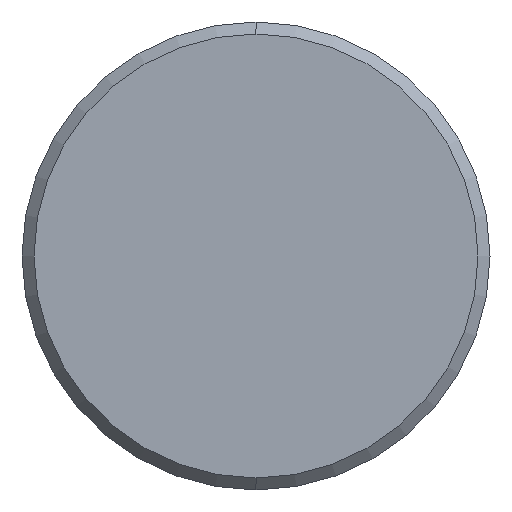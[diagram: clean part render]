
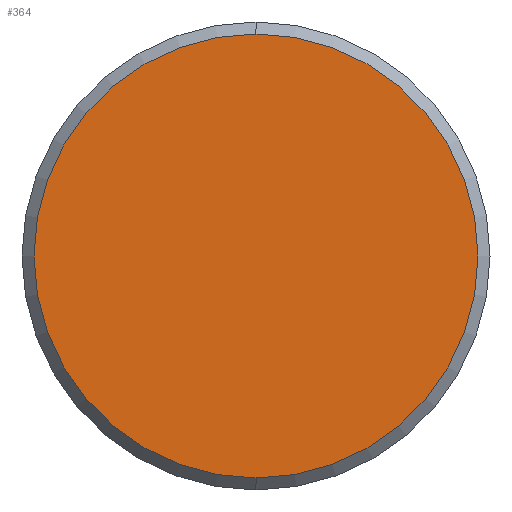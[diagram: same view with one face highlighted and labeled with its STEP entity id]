
A CAD part, left-side view. The second image highlights one B-rep face of the part: STEP entity #364.
In plain terms, the highlighted planar face has unit normal (-1, 0, 0).
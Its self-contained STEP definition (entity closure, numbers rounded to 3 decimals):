
#20 = CARTESIAN_POINT ( 'NONE',  ( 0., 0., 0. ) ) ;
#39 = EDGE_CURVE ( 'NONE', #90, #337, #125, .T. ) ;
#69 = FACE_OUTER_BOUND ( 'NONE', #587, .T. ) ;
#73 = DIRECTION ( 'NONE',  ( 0., 0., -1. ) ) ;
#74 = PLANE ( 'NONE',  #433 ) ;
#90 = VERTEX_POINT ( 'NONE', #328 ) ;
#125 = CIRCLE ( 'NONE', #540, 37. ) ;
#148 = ORIENTED_EDGE ( 'NONE', *, *, #548, .T. ) ;
#175 = CIRCLE ( 'NONE', #257, 37. ) ;
#189 = DIRECTION ( 'NONE',  ( 0., 0., -1. ) ) ;
#242 = DIRECTION ( 'NONE',  ( 0., 0., -1. ) ) ;
#257 = AXIS2_PLACEMENT_3D ( 'NONE', #544, #464, #189 ) ;
#293 = DIRECTION ( 'NONE',  ( -1., 0., 0. ) ) ;
#328 = CARTESIAN_POINT ( 'NONE',  ( 0., 0., 37. ) ) ;
#330 = ORIENTED_EDGE ( 'NONE', *, *, #39, .T. ) ;
#337 = VERTEX_POINT ( 'NONE', #489 ) ;
#364 = ADVANCED_FACE ( 'NONE', ( #69 ), #74, .F. ) ;
#391 = DIRECTION ( 'NONE',  ( 1., 0., 0. ) ) ;
#433 = AXIS2_PLACEMENT_3D ( 'NONE', #581, #391, #73 ) ;
#464 = DIRECTION ( 'NONE',  ( -1., 0., 0. ) ) ;
#489 = CARTESIAN_POINT ( 'NONE',  ( 0., 0., -37. ) ) ;
#540 = AXIS2_PLACEMENT_3D ( 'NONE', #20, #293, #242 ) ;
#544 = CARTESIAN_POINT ( 'NONE',  ( 0., 0., 0. ) ) ;
#548 = EDGE_CURVE ( 'NONE', #337, #90, #175, .T. ) ;
#581 = CARTESIAN_POINT ( 'NONE',  ( 0., 0., 0. ) ) ;
#587 = EDGE_LOOP ( 'NONE', ( #148, #330 ) ) ;
